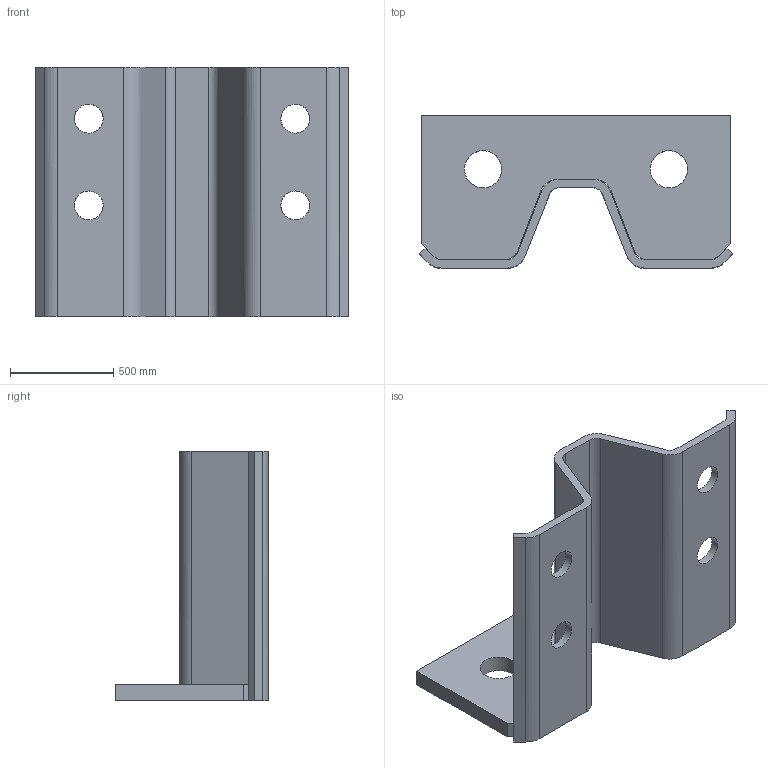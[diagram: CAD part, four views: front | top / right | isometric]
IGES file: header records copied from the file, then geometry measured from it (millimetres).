
Global section: file name: ZB140W90; native system: Autodesk RealDWG; preprocessor: Autodesk Translation Framework DWG producer (atf_dwg_producer); organization: unknown; date: 20241104.112508; units: centimetre
Bounding box: 1517.2 x 740 x 1210 mm (x, y, z)
Volume: 160568650.2 mm3; surface area: 7196596.5 mm2
Topology: 2 solids, 2 shells, 54 faces, 158 edges, 108 vertices
Faces by surface type: bspline 54
